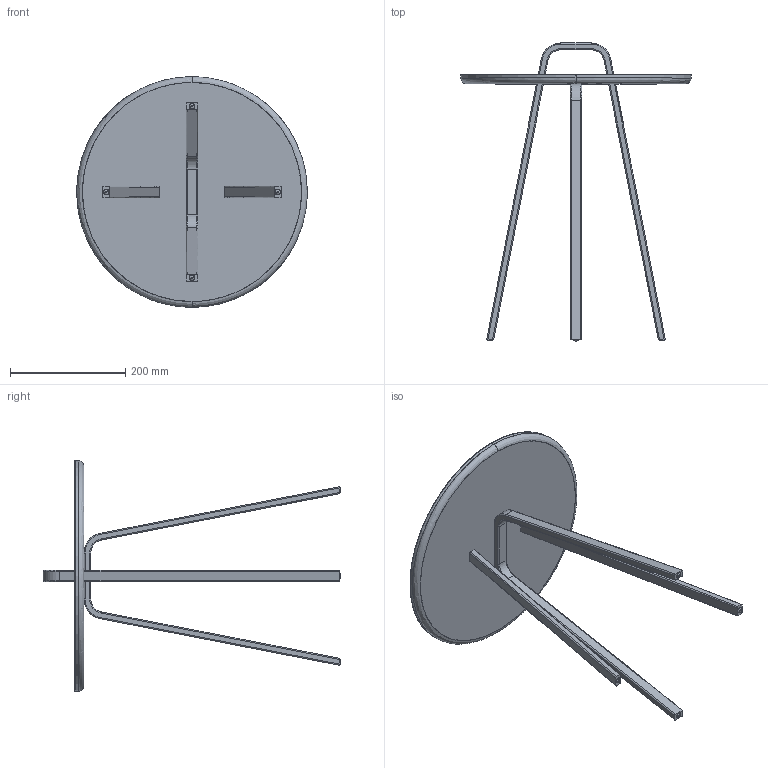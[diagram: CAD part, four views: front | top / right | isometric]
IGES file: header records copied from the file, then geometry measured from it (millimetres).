
Start section: SolidWorks IGES file using analytic representation for surfaces
Global section: file name: G:\Product Info\TOR\3D\IGES\TOR.IGS; native system: SolidWorks 2010; preprocessor: SolidWorks 2010; author: gerard; date: 101220.144302; units: millimetre
Bounding box: 400 x 517 x 400 mm (x, y, z)
Surface area: 408534.5 mm2 (no closed solid volume)
Topology: 0 solids, 0 shells, 243 faces, 4256 edges, 4252 vertices
Faces by surface type: revolution 140, bspline 103
